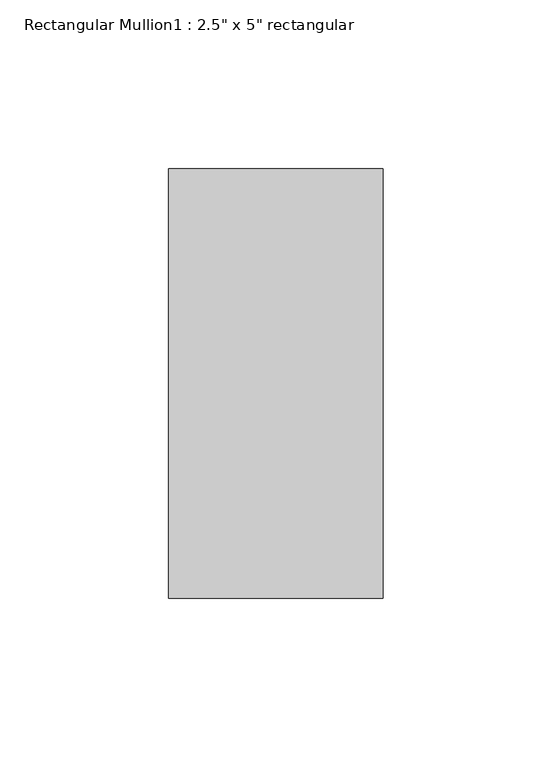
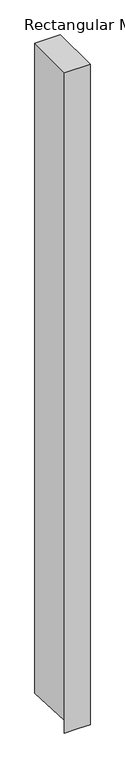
"""IFC4 building model written with IfcOpenShell, lengths in millimetres: member geometry."""

from ifc_helpers import new_model, si_unit, origin, place, context, project, spatial, faceted_brep, source, transform, mapped, element, save


def member_fbbd287a(model_context):
    return source(origin(), model_context, "Body", "Brep", [
        faceted_brep([(31.75, 63.5, 0.0), (-31.75, 63.5, 0.0), (-31.75, -63.5, 0.0), (31.75, -63.5, 0.0), (31.75, 63.5, -1705.0231573), (0.0, 63.5, -1705.0231573), (-31.75, 63.5, -1705.0231573), (-31.75, -62.1974623, -1700.0584389), (-31.75, -63.5, -1733.0362781), (0.0, -63.5, -1733.0362781), (31.75, -63.5, -1733.0362781), (31.75, -62.1974623, -1700.0584389), (0.0, -62.1974623, -1700.0584389)], [[[0, 1, 2, 3]], [[1, 0, 4, 5, 6]], [[2, 1, 6, 7, 8]], [[3, 2, 8, 9, 10]], [[0, 3, 10, 11, 4]], [[4, 11, 12, 5]], [[11, 10, 9, 12]], [[9, 8, 7, 12]], [[7, 6, 5, 12]]]),
    ])


if __name__ == "__main__":
    model = new_model("IFC4")
    model_context = context("Model", 3, world=origin())
    ifc_project = project(units=[si_unit("LENGTHUNIT", "METRE", prefix="MILLI")], contexts=[model_context])
    site = spatial("IfcSite", under=ifc_project)
    building = spatial("IfcBuilding", under=site)
    placement = place(None, origin())
    member_shape = member_fbbd287a(model_context)
    element("IfcMember", 1, ObjectType="Rectangular Mullion1 : 2.5\" x 5\" rectangular", at=placement, inside=building, context=model_context, shape_type="MappedRepresentation", body=[
        mapped(member_shape, transform((0.0, 0.0, 0.0), x_axis=(1.0, 0.0, 0.0), y_axis=(0.0, 1.0, 0.0), z_axis=(0.0, 0.0, 1.0))),
    ])
    save(model, "model.ifc")
